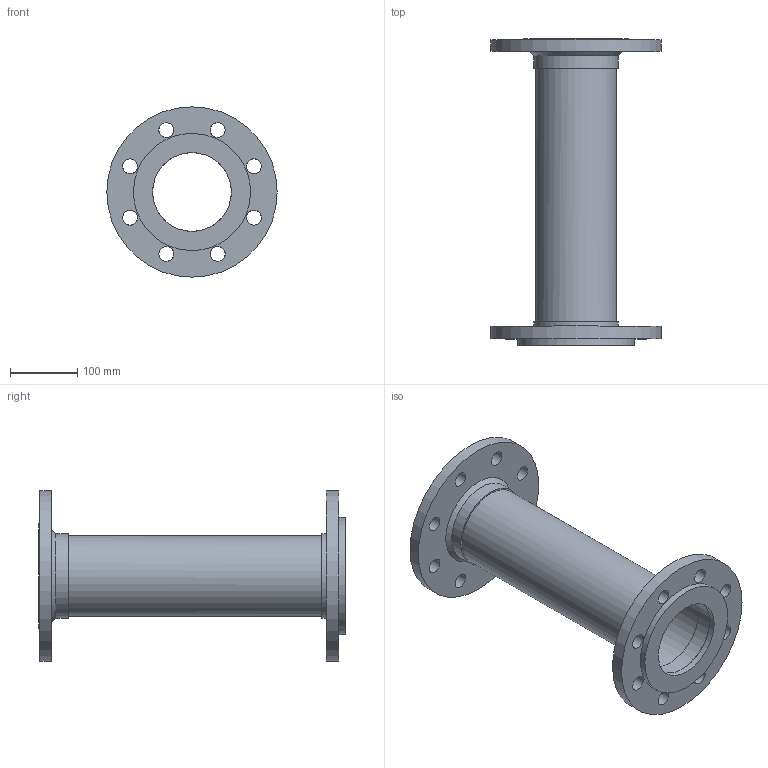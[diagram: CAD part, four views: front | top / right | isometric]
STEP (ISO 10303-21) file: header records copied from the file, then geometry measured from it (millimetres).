
FILE_DESCRIPTION(/* description */ (''),/* implementation_level */ '2;1');
FILE_NAME(/* name */ 'C:\001_Work\Designs\FFL2B-300\FFL2B-300-4x18.stp',/* time_stamp */ '2016-06-14T10:39:52-04:00',/* author */ ('rramoutar'),/* organization */ ('Mason Industries Inc.'),/* preprocessor_version */ 'ST-DEVELOPER v15.6',/* originating_system */ 'Autodesk Inventor 2015',/* authorisation */ '');
FILE_SCHEMA (('CONFIG_CONTROL_DESIGN'));
Length unit declared in the file: inch
Products named in the file (1): FFL2B-300-4x18
Bounding box: 254 x 457.2 x 254 mm (x, y, z)
Volume: 1559228.6 mm3; surface area: 546222.5 mm2
Topology: 1 solids, 1 shells, 41 faces, 107 edges, 77 vertices
Faces by surface type: cylinder 27, plane 11, cone 3
Full cylindrical faces by diameter (mm): 22.225 x16, 117.475 x2, 119.888 x1, 120.701 x1, 125.463 x2, 128.588 x1, 157.162 x1, 174.625 x1, 254 x2
Entity records: 1133 total; most frequent: DIRECTION 198, CARTESIAN_POINT 156, EDGE_LOOP 114, ORIENTED_EDGE 114, AXIS2_PLACEMENT_3D 99, FACE_BOUND 73, CIRCLE 57, VERTEX_POINT 57
